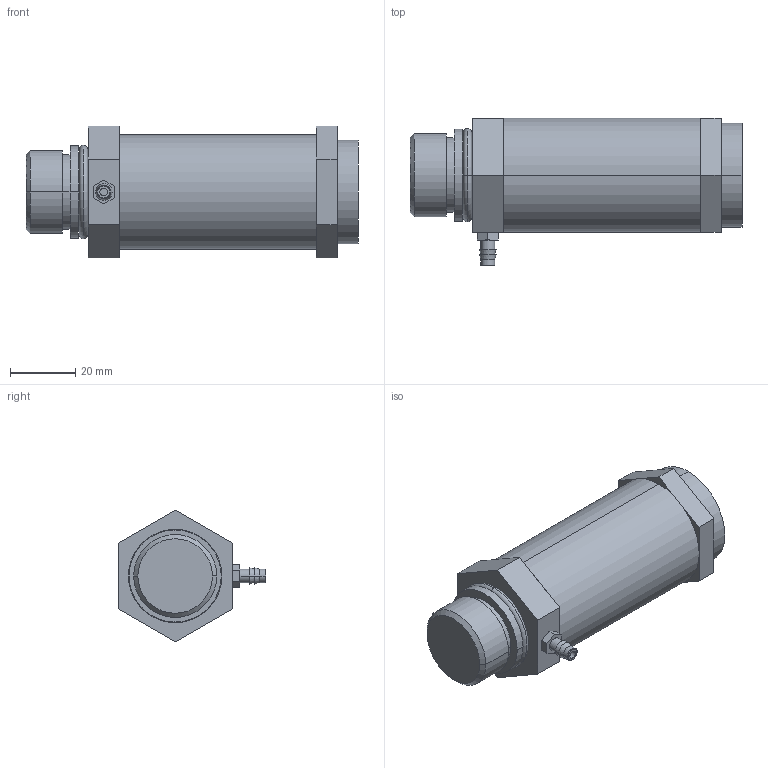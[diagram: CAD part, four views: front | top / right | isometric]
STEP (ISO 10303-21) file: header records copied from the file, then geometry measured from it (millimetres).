
FILE_DESCRIPTION((''),'2;1');
FILE_NAME('XG3_ASM','2017-08-24T',('jennifer.elliott'),('CenterLine (Windsor) Ltd - Automation Components Division'),'PRO/ENGINEER BY PARAMETRIC TECHNOLOGY CORPORATION, 2015030','PRO/ENGINEER BY PARAMETRIC TECHNOLOGY CORPORATION, 2015030','');
FILE_SCHEMA(('AUTOMOTIVE_DESIGN { 1 0 10303 214 1 1 1 1 }'));
Length unit declared in the file: inch
Products named in the file (7): PRT1108; PRT1109; PRT1110; PRT1111; PRT1112; PRT1113; XG3_ASM
Assembly tree (6 placements, depth 2):
  XG3_ASM
    PRT1108
    PRT1109
    PRT1110
    PRT1111
    PRT1112
    PRT1113
Bounding box: 101.6 x 45.24 x 40.33 mm (x, y, z)
Volume: 89687.1 mm3; surface area: 19859.3 mm2
Topology: 6 solids, 6 shells, 67 faces, 138 edges, 88 vertices
Faces by surface type: plane 35, cylinder 18, torus 8, cone 6
Entity records: 2230 total; most frequent: DIRECTION 358, CARTESIAN_POINT 325, ORIENTED_EDGE 276, AXIS2_PLACEMENT_3D 140, EDGE_CURVE 138, VERTEX_POINT 88, VECTOR 78, LINE 78
